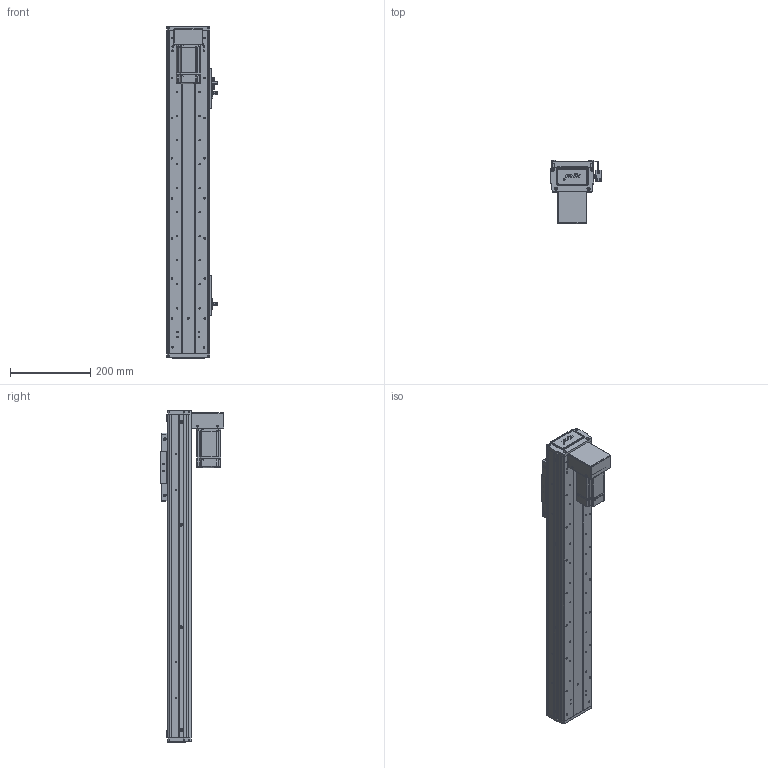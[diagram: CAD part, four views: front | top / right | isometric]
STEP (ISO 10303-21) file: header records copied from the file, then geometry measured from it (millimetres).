
FILE_DESCRIPTION (( 'STEP AP203' ), '1' );
FILE_NAME ('RY100FS-L1620-300-BK(15双轨).SLDASM_550.step', '2021-03-02T07:33:42', ( '盈信电脑' ), ( '东莞市道滘镇水果街19号' ), 'SwSTEP 2.0', 'SolidWorks 2012', '' );
FILE_SCHEMA (( 'CONFIG_CONTROL_DESIGN' ));
Length unit declared in the file: millimetre
Products named in the file (21): RY100FS-L1620-300-BK(15邧寢).SLDASM_550; 滅袉蝶18-15; RY100FS-15双轨下折钢带安装板; 1; RY100FS-15邧寢狟殏萇儂欶; RY100FS-双轨螺母座(16丝杆）; 蚥薯蝶紫輸; RY100FS-15邧寢狟殏萇儂啣; RY80俋离覜茼え; RY100F-詩湍揤踡輸; 覜茼ん672; RY100F-綴裔啣; RY100F-詩湍揤踡謫; RY100F-詩湍幗謫粣; 672嫖萇羲壽假蚾釱; RY100FS-双轨铝滑块(上板）; RY100FS-300-BK15邧寢祥凄詩湍_550; 棠沺沭; RY100F-滅鳥裔啣; RY100FS-300-BK15絳寢倰第菁釱_550; RY100FS-300-BK15絳寢倰第奻裔啣_550
Assembly tree (30 placements, depth 2):
  RY100FS-L1620-300-BK(15邧寢).SLDASM_550
    RY100FS-300-BK15絳寢倰第菁釱_550
    RY100FS-300-BK15絳寢倰第奻裔啣_550  x2
    RY100FS-300-BK15邧寢祥凄詩湍_550
    RY100FS-双轨铝滑块(上板）
    RY100F-滅鳥裔啣
    棠沺沭  x2
    RY100F-詩湍幗謫粣
    RY100F-詩湍揤踡謫  x2
    RY100F-綴裔啣  x2
    672嫖萇羲壽假蚾釱  x2
    RY80俋离覜茼え  x2
    覜茼ん672  x3
    RY100F-詩湍揤踡輸  x2
    RY100FS-双轨螺母座(16丝杆）
    RY100FS-15邧寢狟殏萇儂啣
    RY100FS-15邧寢狟殏萇儂欶
    蚥薯蝶紫輸
    RY100FS-15双轨下折钢带安装板
    滅袉蝶18-15  x2
    1
Bounding box: 126.2 x 158.5 x 829 mm (x, y, z)
Volume: 2151670.1 mm3; surface area: 888224.2 mm2
Topology: 30 solids, 30 shells, 2242 faces, 6105 edges, 3972 vertices
Faces by surface type: plane 1092, cylinder 982, cone 132, bspline 36
Entity records: 60628 total; most frequent: CARTESIAN_POINT 12673, DIRECTION 9498, ORIENTED_EDGE 9450, EDGE_CURVE 4725, AXIS2_PLACEMENT_3D 3329, VERTEX_POINT 3110, VECTOR 2840, LINE 2840
